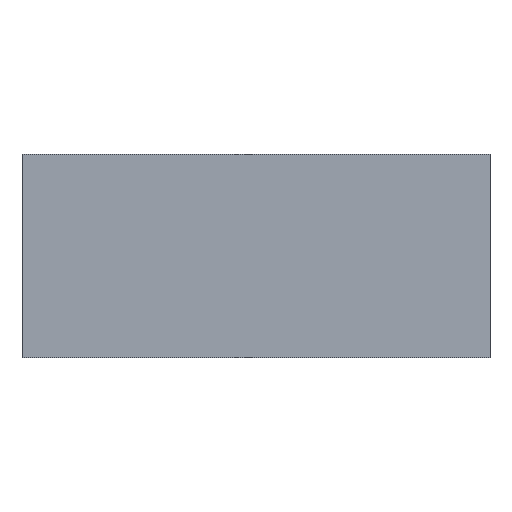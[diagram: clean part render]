
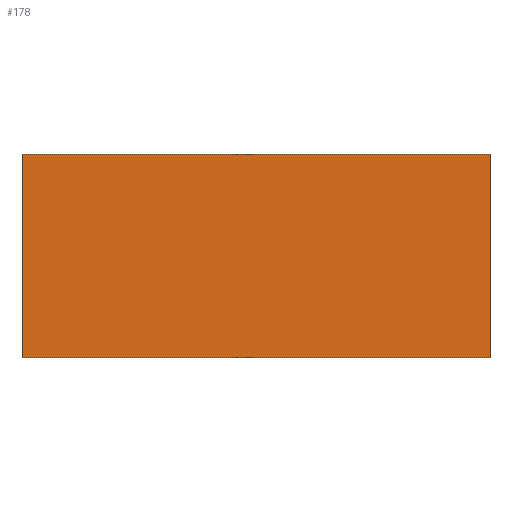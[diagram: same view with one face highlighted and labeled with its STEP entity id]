
A CAD part, left-side view. The second image highlights one B-rep face of the part: STEP entity #178.
In plain terms, the highlighted planar face has unit normal (-1, 0, 0).
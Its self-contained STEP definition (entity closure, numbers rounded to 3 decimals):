
#23=PLANE('',#217);
#33=FACE_OUTER_BOUND('',#45,.T.);
#45=EDGE_LOOP('',(#154,#155,#156,#157));
#56=LINE('',#298,#72);
#63=LINE('',#311,#79);
#64=LINE('',#313,#80);
#65=LINE('',#314,#81);
#72=VECTOR('',#250,10.);
#79=VECTOR('',#261,10.);
#80=VECTOR('',#264,10.);
#81=VECTOR('',#265,10.);
#96=VERTEX_POINT('',#295);
#97=VERTEX_POINT('',#297);
#100=VERTEX_POINT('',#307);
#101=VERTEX_POINT('',#309);
#114=EDGE_CURVE('',#96,#97,#56,.T.);
#121=EDGE_CURVE('',#100,#101,#63,.T.);
#122=EDGE_CURVE('',#96,#100,#64,.T.);
#123=EDGE_CURVE('',#97,#101,#65,.T.);
#154=ORIENTED_EDGE('',*,*,#122,.T.);
#155=ORIENTED_EDGE('',*,*,#121,.T.);
#156=ORIENTED_EDGE('',*,*,#123,.F.);
#157=ORIENTED_EDGE('',*,*,#114,.F.);
#178=ADVANCED_FACE('',(#33),#23,.T.);
#217=AXIS2_PLACEMENT_3D('',#312,#262,#263);
#250=DIRECTION('',(0.,1.,0.));
#261=DIRECTION('',(0.,1.,0.));
#262=DIRECTION('center_axis',(-1.,0.,0.));
#263=DIRECTION('ref_axis',(0.,0.,1.));
#264=DIRECTION('',(0.,0.,1.));
#265=DIRECTION('',(0.,0.,1.));
#295=CARTESIAN_POINT('',(30.5,0.,-51.5));
#297=CARTESIAN_POINT('',(30.5,245.,-51.5));
#298=CARTESIAN_POINT('',(30.5,0.,-51.5));
#307=CARTESIAN_POINT('',(30.5,0.,55.));
#309=CARTESIAN_POINT('',(30.5,245.,55.));
#311=CARTESIAN_POINT('',(30.5,0.,55.));
#312=CARTESIAN_POINT('Origin',(30.5,0.,-51.5));
#313=CARTESIAN_POINT('',(30.5,0.,-51.5));
#314=CARTESIAN_POINT('',(30.5,245.,-51.5));
